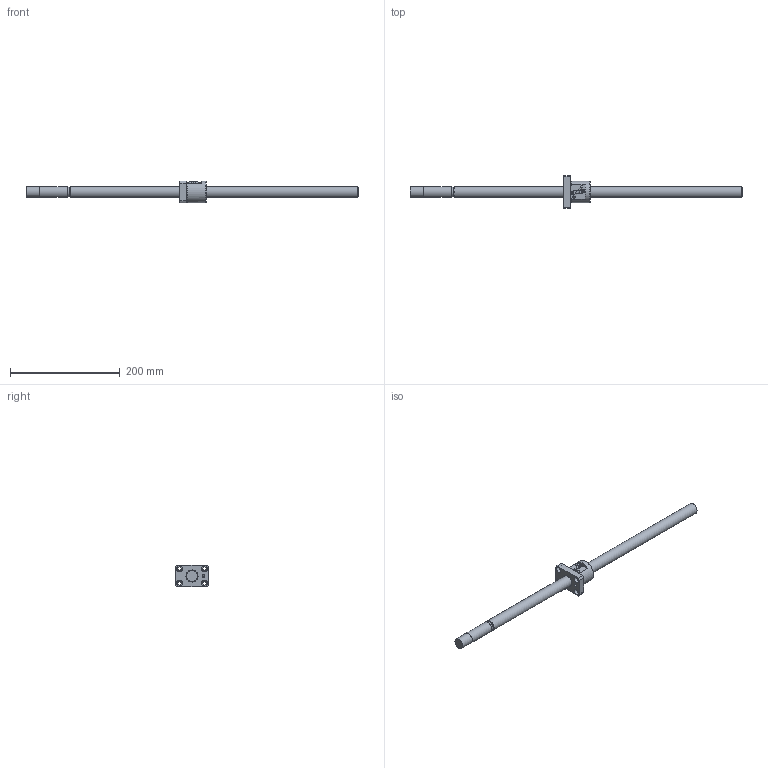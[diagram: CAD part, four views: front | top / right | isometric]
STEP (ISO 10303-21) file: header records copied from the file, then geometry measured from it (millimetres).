
FILE_DESCRIPTION (( 'STEP AP214' ), '1' );
FILE_NAME ('KBS(C)2005-605.STEP', '2021-07-05T02:19:30', ( '' ), ( '' ), 'SwSTEP 2.0', 'SolidWorks 2019', '' );
FILE_SCHEMA (( 'AUTOMOTIVE_DESIGN' ));
Length unit declared in the file: millimetre
Products named in the file (3): KBS2005-605; KBS(C)2005-605; KBS2005
Assembly tree (2 placements, depth 2):
  KBS(C)2005-605
    KBS2005-605
    KBS2005
Bounding box: 605 x 60 x 40 mm (x, y, z)
Volume: 241919.4 mm3; surface area: 54443.3 mm2
Topology: 2 solids, 2 shells, 103 faces, 259 edges, 171 vertices
Faces by surface type: plane 55, cylinder 40, cone 4, torus 4
Full cylindrical faces by diameter (mm): 3.2 x1, 5 x1, 5.6 x2, 6.6 x4, 11 x4, 17.5 x1, 19.5 x1, 20 x3, 22 x2, 40 x1
Entity records: 3305 total; most frequent: CARTESIAN_POINT 870, DIRECTION 464, ORIENTED_EDGE 448, EDGE_CURVE 224, AXIS2_PLACEMENT_3D 176, VERTEX_POINT 164, EDGE_LOOP 158, FACE_OUTER_BOUND 127
